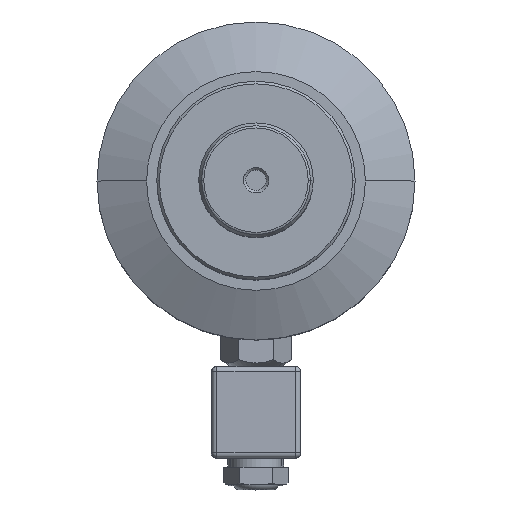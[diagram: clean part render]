
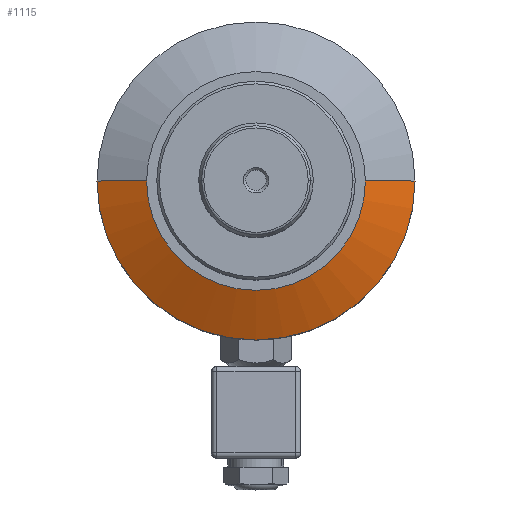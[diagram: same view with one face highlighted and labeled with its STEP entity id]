
A CAD part, top view. The second image highlights one B-rep face of the part: STEP entity #1115.
In plain terms, the highlighted conical face has half-angle 65.225 degrees and reference radius 0 mm.
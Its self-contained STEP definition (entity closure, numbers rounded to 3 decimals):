
#1053=CARTESIAN_POINT('Vertex',(43.,0.,96.3)) ;
#1055=CARTESIAN_POINT('Vertex',(-43.,0.,96.3)) ;
#1058=CARTESIAN_POINT('Axis2P3D Location',(0.,0.,96.3)) ;
#1073=CARTESIAN_POINT('Line Origine',(52.75,0.,91.8)) ;
#1077=CARTESIAN_POINT('Vertex',(62.5,0.,87.3)) ;
#1084=CARTESIAN_POINT('Vertex',(-62.5,0.,87.3)) ;
#1087=CARTESIAN_POINT('Line Origine',(-52.75,0.,91.8)) ;
#1099=CARTESIAN_POINT('Axis2P3D Location',(0.,0.,116.146)) ;
#1104=CARTESIAN_POINT('Axis2P3D Location',(0.,0.,87.3)) ;
#1059=DIRECTION('Axis2P3D Direction',(0.,0.,1.)) ;
#1074=DIRECTION('Vector Direction',(0.908,0.,-0.419)) ;
#1088=DIRECTION('Vector Direction',(-0.908,0.,-0.419)) ;
#1100=DIRECTION('Axis2P3D Direction',(0.,0.,-1.)) ;
#1101=DIRECTION('Axis2P3D XDirection',(-0.809,0.588,0.)) ;
#1105=DIRECTION('Axis2P3D Direction',(0.,0.,1.)) ;
#1060=AXIS2_PLACEMENT_3D('Circle Axis2P3D',#1058,#1059,$) ;
#1102=AXIS2_PLACEMENT_3D('Cone Axis2P3D',#1099,#1100,#1101) ;
#1106=AXIS2_PLACEMENT_3D('Circle Axis2P3D',#1104,#1105,$) ;
#1110=ORIENTED_EDGE('',*,*,#1091,.T.) ;
#1111=ORIENTED_EDGE('',*,*,#1108,.T.) ;
#1112=ORIENTED_EDGE('',*,*,#1079,.F.) ;
#1113=ORIENTED_EDGE('',*,*,#1062,.F.) ;
#1075=VECTOR('Line Direction',#1074,1.) ;
#1089=VECTOR('Line Direction',#1088,1.) ;
#1115=ADVANCED_FACE('',(#1114),#1103,.T.) ;
#1061=CIRCLE('generated circle',#1060,43.) ;
#1107=CIRCLE('generated circle',#1106,62.5) ;
#1103=CONICAL_SURFACE('Cone',#1102,0.,1.138) ;
#1062=EDGE_CURVE('',#1056,#1054,#1061,.T.) ;
#1079=EDGE_CURVE('',#1054,#1078,#1076,.T.) ;
#1091=EDGE_CURVE('',#1056,#1085,#1090,.T.) ;
#1108=EDGE_CURVE('',#1085,#1078,#1107,.T.) ;
#1109=EDGE_LOOP('',(#1110,#1111,#1112,#1113)) ;
#1114=FACE_OUTER_BOUND('',#1109,.T.) ;
#1076=LINE('Line',#1073,#1075) ;
#1090=LINE('Line',#1087,#1089) ;
#1054=VERTEX_POINT('',#1053) ;
#1056=VERTEX_POINT('',#1055) ;
#1078=VERTEX_POINT('',#1077) ;
#1085=VERTEX_POINT('',#1084) ;
